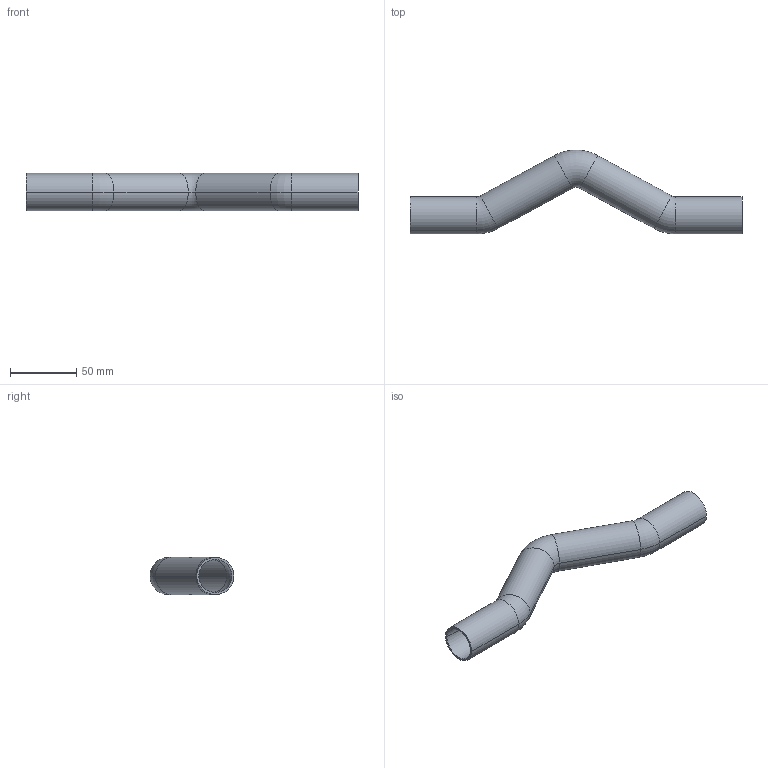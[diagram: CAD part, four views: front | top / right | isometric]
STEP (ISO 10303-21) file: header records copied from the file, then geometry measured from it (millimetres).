
FILE_DESCRIPTION (( 'STEP AP214' ), '1' );
FILE_NAME ('Q280000.STEP', '2025-08-17T13:14:58', ( '' ), ( '' ), 'SwSTEP 2.0', 'SolidWorks 2020', '' );
FILE_SCHEMA (( 'AUTOMOTIVE_DESIGN' ));
Length unit declared in the file: millimetre
Products named in the file (1): Q280000
Bounding box: 250 x 63.24 x 28 mm (x, y, z)
Volume: 33351.3 mm3; surface area: 44718.2 mm2
Topology: 1 solids, 1 shells, 30 faces, 60 edges, 32 vertices
Faces by surface type: cylinder 16, torus 12, plane 2
Entity records: 1144 total; most frequent: DIRECTION 166, CARTESIAN_POINT 123, ORIENTED_EDGE 120, AXIS2_PLACEMENT_3D 75, EDGE_CURVE 60, CIRCLE 44, UNCERTAINTY_MEASURE_WITH_UNIT 33, SURFACE_STYLE_USAGE 32
